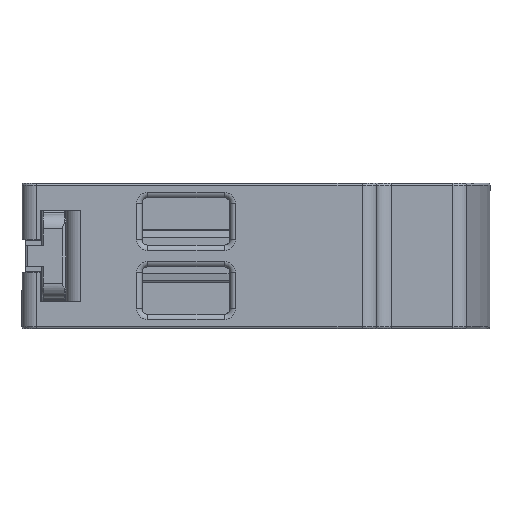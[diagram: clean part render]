
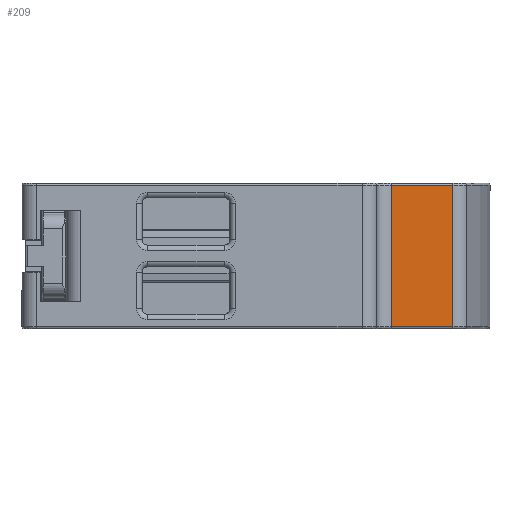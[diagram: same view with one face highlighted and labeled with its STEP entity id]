
A CAD part, front view. The second image highlights one B-rep face of the part: STEP entity #209.
In plain terms, the highlighted planar face has unit normal (0, -1, 0).
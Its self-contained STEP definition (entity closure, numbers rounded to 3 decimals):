
#209 = ADVANCED_FACE ( 'NONE', ( #3788 ), #4021, .F. ) ;
#2200 = DIRECTION ( 'NONE',  ( 1., 0., 0. ) ) ;
#2721 = ORIENTED_EDGE ( 'NONE', *, *, #9226, .F. ) ;
#2864 = VECTOR ( 'NONE', #3311, 1000. ) ;
#3311 = DIRECTION ( 'NONE',  ( 0., 0., 1. ) ) ;
#3434 = CARTESIAN_POINT ( 'NONE',  ( -63.303, -21.367, -0.3 ) ) ;
#3788 = FACE_OUTER_BOUND ( 'NONE', #7865, .T. ) ;
#4021 = PLANE ( 'NONE',  #11792 ) ;
#4664 = EDGE_CURVE ( 'NONE', #19194, #9428, #19612, .T. ) ;
#5347 = VECTOR ( 'NONE', #10341, 1000. ) ;
#5635 = CARTESIAN_POINT ( 'NONE',  ( -54.868, -21.367, -0.3 ) ) ;
#7604 = VERTEX_POINT ( 'NONE', #13905 ) ;
#7865 = EDGE_LOOP ( 'NONE', ( #2721, #16816, #15591, #17640 ) ) ;
#9226 = EDGE_CURVE ( 'NONE', #7604, #12186, #10765, .T. ) ;
#9428 = VERTEX_POINT ( 'NONE', #5635 ) ;
#10341 = DIRECTION ( 'NONE',  ( 0., 0., 1. ) ) ;
#10765 = LINE ( 'NONE', #12221, #2864 ) ;
#10826 = CARTESIAN_POINT ( 'NONE',  ( -54.868, -21.367, -3.2 ) ) ;
#11275 = CARTESIAN_POINT ( 'NONE',  ( -63.303, -21.367, -0.3 ) ) ;
#11792 = AXIS2_PLACEMENT_3D ( 'NONE', #18912, #24140, #2200 ) ;
#12186 = VERTEX_POINT ( 'NONE', #11275 ) ;
#12221 = CARTESIAN_POINT ( 'NONE',  ( -63.303, -21.367, -3.2 ) ) ;
#12520 = EDGE_CURVE ( 'NONE', #9428, #12186, #23907, .T. ) ;
#12547 = LINE ( 'NONE', #18051, #18570 ) ;
#13905 = CARTESIAN_POINT ( 'NONE',  ( -63.303, -21.367, -19.6 ) ) ;
#15591 = ORIENTED_EDGE ( 'NONE', *, *, #4664, .T. ) ;
#16460 = VECTOR ( 'NONE', #18203, 1000. ) ;
#16816 = ORIENTED_EDGE ( 'NONE', *, *, #19821, .T. ) ;
#17640 = ORIENTED_EDGE ( 'NONE', *, *, #12520, .T. ) ;
#18051 = CARTESIAN_POINT ( 'NONE',  ( -54.868, -21.367, -19.6 ) ) ;
#18203 = DIRECTION ( 'NONE',  ( -1., 0., 0. ) ) ;
#18570 = VECTOR ( 'NONE', #20243, 1000. ) ;
#18912 = CARTESIAN_POINT ( 'NONE',  ( -54.868, -21.367, -19.2 ) ) ;
#19194 = VERTEX_POINT ( 'NONE', #22905 ) ;
#19612 = LINE ( 'NONE', #10826, #5347 ) ;
#19821 = EDGE_CURVE ( 'NONE', #7604, #19194, #12547, .T. ) ;
#20243 = DIRECTION ( 'NONE',  ( 1., 0., 0. ) ) ;
#22905 = CARTESIAN_POINT ( 'NONE',  ( -54.868, -21.367, -19.6 ) ) ;
#23907 = LINE ( 'NONE', #3434, #16460 ) ;
#24140 = DIRECTION ( 'NONE',  ( 0., 1., 0. ) ) ;
